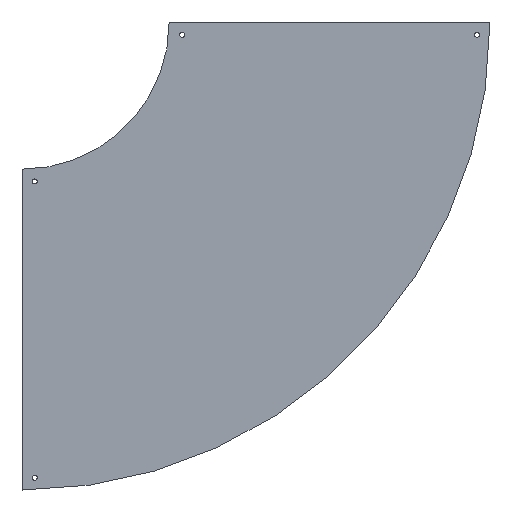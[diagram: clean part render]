
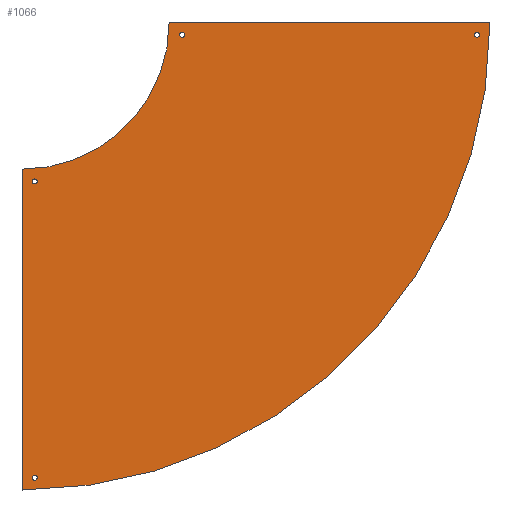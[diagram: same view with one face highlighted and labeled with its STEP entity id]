
A CAD part, top view. The second image highlights one B-rep face of the part: STEP entity #1066.
In plain terms, the highlighted planar face has unit normal (0, 0, 1).
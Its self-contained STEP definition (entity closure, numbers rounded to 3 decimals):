
#49=FACE_BOUND('',#205,.T.);
#50=FACE_BOUND('',#206,.T.);
#51=FACE_BOUND('',#207,.T.);
#52=FACE_BOUND('',#208,.T.);
#63=CIRCLE('',#1156,298.5);
#64=CIRCLE('',#1157,951.5);
#65=CIRCLE('',#1158,5.);
#66=CIRCLE('',#1159,5.);
#67=CIRCLE('',#1160,5.);
#68=CIRCLE('',#1161,5.);
#69=CIRCLE('',#1162,5.);
#70=CIRCLE('',#1163,5.);
#71=CIRCLE('',#1164,5.);
#72=CIRCLE('',#1165,5.);
#134=FACE_OUTER_BOUND('',#204,.T.);
#204=EDGE_LOOP('',(#826,#827,#828,#829,#830,#831,#832,#833));
#205=EDGE_LOOP('',(#834,#835));
#206=EDGE_LOOP('',(#836,#837));
#207=EDGE_LOOP('',(#838,#839));
#208=EDGE_LOOP('',(#840,#841));
#297=LINE('',#1670,#405);
#298=LINE('',#1673,#406);
#306=LINE('',#1708,#414);
#307=LINE('',#1713,#415);
#308=LINE('',#1715,#416);
#309=LINE('',#1717,#417);
#405=VECTOR('',#1333,304.8);
#406=VECTOR('',#1336,304.8);
#414=VECTOR('',#1368,304.8);
#415=VECTOR('',#1373,304.8);
#416=VECTOR('',#1374,304.8);
#417=VECTOR('',#1375,304.8);
#494=VERTEX_POINT('',#1663);
#497=VERTEX_POINT('',#1668);
#498=VERTEX_POINT('',#1672);
#513=VERTEX_POINT('',#1706);
#514=VERTEX_POINT('',#1710);
#515=VERTEX_POINT('',#1712);
#516=VERTEX_POINT('',#1714);
#517=VERTEX_POINT('',#1716);
#518=VERTEX_POINT('',#1719);
#519=VERTEX_POINT('',#1720);
#520=VERTEX_POINT('',#1723);
#521=VERTEX_POINT('',#1724);
#522=VERTEX_POINT('',#1727);
#523=VERTEX_POINT('',#1728);
#524=VERTEX_POINT('',#1731);
#525=VERTEX_POINT('',#1732);
#609=EDGE_CURVE('',#497,#494,#297,.T.);
#610=EDGE_CURVE('',#494,#498,#298,.T.);
#628=EDGE_CURVE('',#513,#497,#306,.T.);
#629=EDGE_CURVE('',#513,#514,#63,.T.);
#630=EDGE_CURVE('',#514,#515,#307,.T.);
#631=EDGE_CURVE('',#515,#516,#308,.T.);
#632=EDGE_CURVE('',#516,#517,#309,.T.);
#633=EDGE_CURVE('',#517,#498,#64,.T.);
#634=EDGE_CURVE('',#518,#519,#65,.T.);
#635=EDGE_CURVE('',#519,#518,#66,.T.);
#636=EDGE_CURVE('',#520,#521,#67,.T.);
#637=EDGE_CURVE('',#521,#520,#68,.T.);
#638=EDGE_CURVE('',#522,#523,#69,.T.);
#639=EDGE_CURVE('',#523,#522,#70,.T.);
#640=EDGE_CURVE('',#524,#525,#71,.T.);
#641=EDGE_CURVE('',#525,#524,#72,.T.);
#826=ORIENTED_EDGE('',*,*,#609,.F.);
#827=ORIENTED_EDGE('',*,*,#628,.F.);
#828=ORIENTED_EDGE('',*,*,#629,.T.);
#829=ORIENTED_EDGE('',*,*,#630,.T.);
#830=ORIENTED_EDGE('',*,*,#631,.T.);
#831=ORIENTED_EDGE('',*,*,#632,.T.);
#832=ORIENTED_EDGE('',*,*,#633,.T.);
#833=ORIENTED_EDGE('',*,*,#610,.F.);
#834=ORIENTED_EDGE('',*,*,#634,.T.);
#835=ORIENTED_EDGE('',*,*,#635,.T.);
#836=ORIENTED_EDGE('',*,*,#636,.T.);
#837=ORIENTED_EDGE('',*,*,#637,.T.);
#838=ORIENTED_EDGE('',*,*,#638,.T.);
#839=ORIENTED_EDGE('',*,*,#639,.T.);
#840=ORIENTED_EDGE('',*,*,#640,.T.);
#841=ORIENTED_EDGE('',*,*,#641,.T.);
#1018=PLANE('',#1155);
#1066=ADVANCED_FACE('',(#134,#49,#50,#51,#52),#1018,.T.);
#1155=AXIS2_PLACEMENT_3D('',#1709,#1369,#1370);
#1156=AXIS2_PLACEMENT_3D('',#1711,#1371,#1372);
#1157=AXIS2_PLACEMENT_3D('',#1718,#1376,#1377);
#1158=AXIS2_PLACEMENT_3D('',#1721,#1378,#1379);
#1159=AXIS2_PLACEMENT_3D('',#1722,#1380,#1381);
#1160=AXIS2_PLACEMENT_3D('',#1725,#1382,#1383);
#1161=AXIS2_PLACEMENT_3D('',#1726,#1384,#1385);
#1162=AXIS2_PLACEMENT_3D('',#1729,#1386,#1387);
#1163=AXIS2_PLACEMENT_3D('',#1730,#1388,#1389);
#1164=AXIS2_PLACEMENT_3D('',#1733,#1390,#1391);
#1165=AXIS2_PLACEMENT_3D('',#1734,#1392,#1393);
#1333=DIRECTION('',(1.,0.,0.));
#1336=DIRECTION('',(0.,-1.,0.));
#1368=DIRECTION('',(0.,1.,0.));
#1369=DIRECTION('center_axis',(0.,0.,1.));
#1370=DIRECTION('ref_axis',(0.,-1.,0.));
#1371=DIRECTION('center_axis',(0.,0.,-1.));
#1372=DIRECTION('ref_axis',(1.,0.,0.));
#1373=DIRECTION('',(-1.,0.,0.));
#1374=DIRECTION('',(0.,-1.,0.));
#1375=DIRECTION('',(1.,0.,0.));
#1376=DIRECTION('center_axis',(0.,0.,1.));
#1377=DIRECTION('ref_axis',(1.,0.,0.));
#1378=DIRECTION('center_axis',(0.,0.,-1.));
#1379=DIRECTION('ref_axis',(1.,0.,0.));
#1380=DIRECTION('center_axis',(0.,0.,-1.));
#1381=DIRECTION('ref_axis',(1.,0.,0.));
#1382=DIRECTION('center_axis',(0.,0.,-1.));
#1383=DIRECTION('ref_axis',(1.,0.,0.));
#1384=DIRECTION('center_axis',(0.,0.,-1.));
#1385=DIRECTION('ref_axis',(1.,0.,0.));
#1386=DIRECTION('center_axis',(0.,0.,-1.));
#1387=DIRECTION('ref_axis',(1.,0.,0.));
#1388=DIRECTION('center_axis',(0.,0.,-1.));
#1389=DIRECTION('ref_axis',(1.,0.,0.));
#1390=DIRECTION('center_axis',(0.,0.,-1.));
#1391=DIRECTION('ref_axis',(1.,0.,0.));
#1392=DIRECTION('center_axis',(0.,0.,-1.));
#1393=DIRECTION('ref_axis',(1.,0.,0.));
#1663=CARTESIAN_POINT('',(326.5,626.,1.5));
#1668=CARTESIAN_POINT('',(-326.5,626.,1.5));
#1670=CARTESIAN_POINT('',(-326.5,626.,1.5));
#1672=CARTESIAN_POINT('',(326.5,625.,1.5));
#1673=CARTESIAN_POINT('',(326.5,626.,1.5));
#1706=CARTESIAN_POINT('',(-326.5,625.,1.5));
#1708=CARTESIAN_POINT('',(-326.5,626.,1.5));
#1709=CARTESIAN_POINT('Origin',(-326.5,626.,1.5));
#1710=CARTESIAN_POINT('',(-625.,326.5,1.5));
#1711=CARTESIAN_POINT('Origin',(-625.,625.,1.5));
#1712=CARTESIAN_POINT('',(-626.,326.5,1.5));
#1713=CARTESIAN_POINT('',(-625.,326.5,1.5));
#1714=CARTESIAN_POINT('',(-626.,-326.5,1.5));
#1715=CARTESIAN_POINT('',(-626.,-326.5,1.5));
#1716=CARTESIAN_POINT('',(-625.,-326.5,1.5));
#1717=CARTESIAN_POINT('',(-625.,-326.5,1.5));
#1718=CARTESIAN_POINT('Origin',(-625.,625.,1.5));
#1719=CARTESIAN_POINT('',(-595.,301.5,1.5));
#1720=CARTESIAN_POINT('',(-605.,301.5,1.5));
#1721=CARTESIAN_POINT('Origin',(-600.,301.5,1.5));
#1722=CARTESIAN_POINT('Origin',(-600.,301.5,1.5));
#1723=CARTESIAN_POINT('',(-595.,-301.5,1.5));
#1724=CARTESIAN_POINT('',(-605.,-301.5,1.5));
#1725=CARTESIAN_POINT('Origin',(-600.,-301.5,1.5));
#1726=CARTESIAN_POINT('Origin',(-600.,-301.5,1.5));
#1727=CARTESIAN_POINT('',(-295.,600.,1.5));
#1728=CARTESIAN_POINT('',(-305.,600.,1.5));
#1729=CARTESIAN_POINT('Origin',(-300.,600.,1.5));
#1730=CARTESIAN_POINT('Origin',(-300.,600.,1.5));
#1731=CARTESIAN_POINT('',(305.,600.,1.5));
#1732=CARTESIAN_POINT('',(295.,600.,1.5));
#1733=CARTESIAN_POINT('Origin',(300.,600.,1.5));
#1734=CARTESIAN_POINT('Origin',(300.,600.,1.5));
